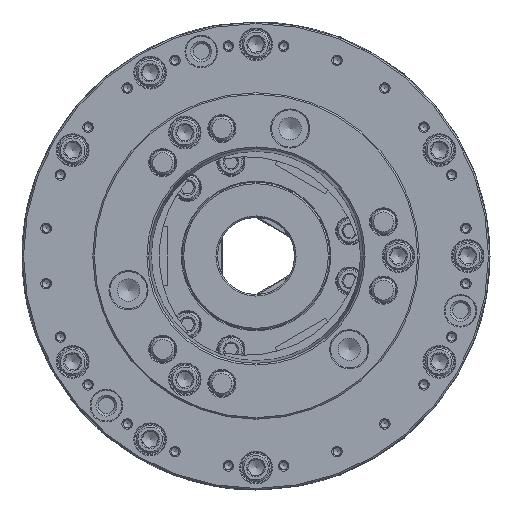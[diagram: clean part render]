
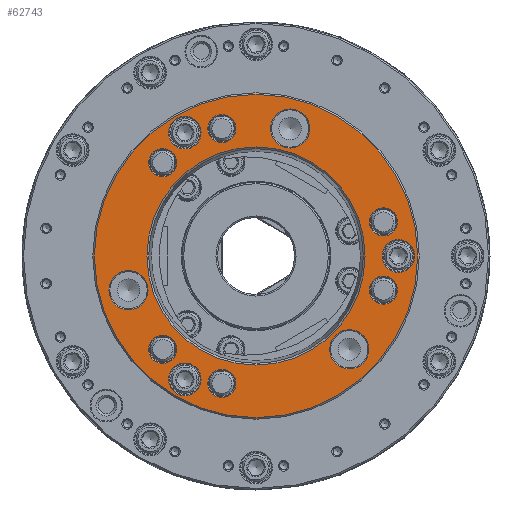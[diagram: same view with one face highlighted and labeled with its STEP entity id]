
A CAD part, left-side view. The second image highlights one B-rep face of the part: STEP entity #62743.
In plain terms, the highlighted planar face has unit normal (-1, 0, 0).
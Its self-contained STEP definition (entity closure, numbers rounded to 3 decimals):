
#1547 = VERTEX_POINT ( 'NONE', #137306 ) ;
#3673 = CIRCLE ( 'NONE', #86503, 9.1 ) ;
#4476 = DIRECTION ( 'NONE',  ( -1., 0., 0. ) ) ;
#4709 = DIRECTION ( 'NONE',  ( 0., 0., 1. ) ) ;
#4821 = CIRCLE ( 'NONE', #99530, 10.6 ) ;
#5440 = AXIS2_PLACEMENT_3D ( 'NONE', #75492, #141645, #39924 ) ;
#6103 = CIRCLE ( 'NONE', #136365, 9.1 ) ;
#7061 = DIRECTION ( 'NONE',  ( 1., 0., 0. ) ) ;
#7134 = DIRECTION ( 'NONE',  ( 0., 0., 1. ) ) ;
#7761 = CARTESIAN_POINT ( 'NONE',  ( -125., 46.25, 90.707 ) ) ;
#8239 = CARTESIAN_POINT ( 'NONE',  ( -125., -60.617, -73.322 ) ) ;
#8973 = VERTEX_POINT ( 'NONE', #8239 ) ;
#11307 = FACE_BOUND ( 'NONE', #35131, .T. ) ;
#13170 = EDGE_CURVE ( 'NONE', #1547, #1547, #72169, .T. ) ;
#13185 = CIRCLE ( 'NONE', #131648, 105. ) ;
#14830 = CIRCLE ( 'NONE', #123785, 9.1 ) ;
#14982 = ORIENTED_EDGE ( 'NONE', *, *, #13170, .T. ) ;
#15498 = ORIENTED_EDGE ( 'NONE', *, *, #29129, .F. ) ;
#15555 = CARTESIAN_POINT ( 'NONE',  ( -125., 46.25, -69.507 ) ) ;
#15605 = DIRECTION ( 'NONE',  ( 0., 0., 1. ) ) ;
#17101 = ORIENTED_EDGE ( 'NONE', *, *, #110512, .T. ) ;
#17134 = AXIS2_PLACEMENT_3D ( 'NONE', #68500, #92201, #101908 ) ;
#17188 = VERTEX_POINT ( 'NONE', #51200 ) ;
#18461 = VERTEX_POINT ( 'NONE', #86624 ) ;
#20449 = EDGE_LOOP ( 'NONE', ( #140870 ) ) ;
#20658 = VERTEX_POINT ( 'NONE', #88825 ) ;
#22438 = FACE_OUTER_BOUND ( 'NONE', #40760, .T. ) ;
#23261 = DIRECTION ( 'NONE',  ( 1., 0., 0. ) ) ;
#23442 = VERTEX_POINT ( 'NONE', #124332 ) ;
#23877 = FACE_BOUND ( 'NONE', #100569, .T. ) ;
#24221 = CIRCLE ( 'NONE', #17134, 70.861 ) ;
#25695 = ORIENTED_EDGE ( 'NONE', *, *, #134615, .T. ) ;
#26731 = CARTESIAN_POINT ( 'NONE',  ( -125., 60.617, 60.617 ) ) ;
#26752 = DIRECTION ( 'NONE',  ( -1., 0., 0. ) ) ;
#26850 = ORIENTED_EDGE ( 'NONE', *, *, #29685, .F. ) ;
#27838 = EDGE_LOOP ( 'NONE', ( #136632 ) ) ;
#29129 = EDGE_CURVE ( 'NONE', #61467, #61467, #131443, .T. ) ;
#29685 = EDGE_CURVE ( 'NONE', #132701, #132701, #6103, .T. ) ;
#32806 = CIRCLE ( 'NONE', #113340, 12.705 ) ;
#35131 = EDGE_LOOP ( 'NONE', ( #17101 ) ) ;
#35157 = DIRECTION ( 'NONE',  ( 0., 0., 1. ) ) ;
#35725 = FACE_BOUND ( 'NONE', #20449, .T. ) ;
#36315 = AXIS2_PLACEMENT_3D ( 'NONE', #45742, #79849, #99948 ) ;
#36596 = CARTESIAN_POINT ( 'NONE',  ( -125., 22.187, 82.804 ) ) ;
#38931 = DIRECTION ( 'NONE',  ( 0., 0., 1. ) ) ;
#39924 = DIRECTION ( 'NONE',  ( 0., 0., -1. ) ) ;
#40364 = ORIENTED_EDGE ( 'NONE', *, *, #101087, .F. ) ;
#40500 = AXIS2_PLACEMENT_3D ( 'NONE', #68469, #136799, #35157 ) ;
#40760 = EDGE_LOOP ( 'NONE', ( #25695 ) ) ;
#41182 = DIRECTION ( 'NONE',  ( -1., 0., 0. ) ) ;
#43359 = CIRCLE ( 'NONE', #36315, 9.1 ) ;
#44607 = DIRECTION ( 'NONE',  ( 0., 0., -1. ) ) ;
#45332 = FACE_BOUND ( 'NONE', #119752, .T. ) ;
#45454 = CARTESIAN_POINT ( 'NONE',  ( -125., 60.617, -60.617 ) ) ;
#45742 = CARTESIAN_POINT ( 'NONE',  ( -125., -82.804, 22.187 ) ) ;
#46136 = AXIS2_PLACEMENT_3D ( 'NONE', #26731, #4476, #15605 ) ;
#49063 = EDGE_LOOP ( 'NONE', ( #14982 ) ) ;
#49286 = CARTESIAN_POINT ( 'NONE',  ( -125., 46.25, -80.107 ) ) ;
#51200 = CARTESIAN_POINT ( 'NONE',  ( -125., 0., 70.861 ) ) ;
#54272 = EDGE_CURVE ( 'NONE', #62042, #62042, #3673, .T. ) ;
#54410 = DIRECTION ( 'NONE',  ( 0., 0., -1. ) ) ;
#54881 = DIRECTION ( 'NONE',  ( -1., 0., 0. ) ) ;
#56354 = VERTEX_POINT ( 'NONE', #136529 ) ;
#56478 = DIRECTION ( 'NONE',  ( 1., 0., 0. ) ) ;
#56579 = DIRECTION ( 'NONE',  ( -1., 0., 0. ) ) ;
#57192 = FACE_BOUND ( 'NONE', #49063, .T. ) ;
#58096 = ORIENTED_EDGE ( 'NONE', *, *, #54272, .F. ) ;
#58750 = DIRECTION ( 'NONE',  ( 0., 0., -1. ) ) ;
#61467 = VERTEX_POINT ( 'NONE', #95611 ) ;
#62042 = VERTEX_POINT ( 'NONE', #107305 ) ;
#62743 = ADVANCED_FACE ( 'NONE', ( #124046, #11307, #57192, #69780, #45332, #101726, #92762, #138113, #100993, #35725, #124767, #126209, #22438, #23877 ), #115069, .F. ) ;
#63791 = CARTESIAN_POINT ( 'NONE',  ( -125., -82.804, 31.287 ) ) ;
#66899 = EDGE_CURVE ( 'NONE', #23442, #23442, #32806, .T. ) ;
#67470 = CARTESIAN_POINT ( 'NONE',  ( -125., 22.187, 91.904 ) ) ;
#68469 = CARTESIAN_POINT ( 'NONE',  ( -125., -92.5, 0. ) ) ;
#68500 = CARTESIAN_POINT ( 'NONE',  ( -125., 0., 0. ) ) ;
#68920 = VERTEX_POINT ( 'NONE', #67470 ) ;
#69780 = FACE_BOUND ( 'NONE', #90919, .T. ) ;
#72169 = CIRCLE ( 'NONE', #79279, 12.705 ) ;
#74046 = CIRCLE ( 'NONE', #5440, 12.705 ) ;
#75492 = CARTESIAN_POINT ( 'NONE',  ( -125., -60.617, -60.617 ) ) ;
#79279 = AXIS2_PLACEMENT_3D ( 'NONE', #88546, #7061, #54410 ) ;
#79849 = DIRECTION ( 'NONE',  ( -1., 0., 0. ) ) ;
#83089 = CARTESIAN_POINT ( 'NONE',  ( -125., 22.187, -82.804 ) ) ;
#83823 = DIRECTION ( 'NONE',  ( 0., 0., 1. ) ) ;
#84166 = EDGE_LOOP ( 'NONE', ( #114545 ) ) ;
#86503 = AXIS2_PLACEMENT_3D ( 'NONE', #112763, #54881, #87512 ) ;
#86624 = CARTESIAN_POINT ( 'NONE',  ( -125., -92.5, 10.6 ) ) ;
#87291 = AXIS2_PLACEMENT_3D ( 'NONE', #146336, #56478, #44607 ) ;
#87512 = DIRECTION ( 'NONE',  ( 0., 0., 1. ) ) ;
#87561 = EDGE_CURVE ( 'NONE', #110778, #110778, #141351, .T. ) ;
#88539 = EDGE_LOOP ( 'NONE', ( #40364 ) ) ;
#88546 = CARTESIAN_POINT ( 'NONE',  ( -125., 82.804, -22.187 ) ) ;
#88825 = CARTESIAN_POINT ( 'NONE',  ( -125., 0., 105. ) ) ;
#89167 = AXIS2_PLACEMENT_3D ( 'NONE', #128355, #26752, #129082 ) ;
#90919 = EDGE_LOOP ( 'NONE', ( #26850 ) ) ;
#92187 = EDGE_LOOP ( 'NONE', ( #116874 ) ) ;
#92201 = DIRECTION ( 'NONE',  ( -1., 0., 0. ) ) ;
#92762 = FACE_BOUND ( 'NONE', #92187, .T. ) ;
#95611 = CARTESIAN_POINT ( 'NONE',  ( -125., 60.617, 69.717 ) ) ;
#99530 = AXIS2_PLACEMENT_3D ( 'NONE', #49286, #116865, #38931 ) ;
#99948 = DIRECTION ( 'NONE',  ( 0., 0., 1. ) ) ;
#100569 = EDGE_LOOP ( 'NONE', ( #15498 ) ) ;
#100993 = FACE_BOUND ( 'NONE', #135746, .T. ) ;
#101087 = EDGE_CURVE ( 'NONE', #17188, #17188, #24221, .T. ) ;
#101726 = FACE_BOUND ( 'NONE', #27838, .T. ) ;
#101846 = DIRECTION ( 'NONE',  ( 0., 0., 1. ) ) ;
#101908 = DIRECTION ( 'NONE',  ( 0., 0., 1. ) ) ;
#102167 = CIRCLE ( 'NONE', #40500, 10.6 ) ;
#103939 = ORIENTED_EDGE ( 'NONE', *, *, #142762, .F. ) ;
#106725 = EDGE_CURVE ( 'NONE', #123180, #123180, #43359, .T. ) ;
#107305 = CARTESIAN_POINT ( 'NONE',  ( -125., -82.804, -13.087 ) ) ;
#110512 = EDGE_CURVE ( 'NONE', #8973, #8973, #74046, .T. ) ;
#110778 = VERTEX_POINT ( 'NONE', #7761 ) ;
#111536 = EDGE_CURVE ( 'NONE', #56354, #56354, #14830, .T. ) ;
#112763 = CARTESIAN_POINT ( 'NONE',  ( -125., -82.804, -22.187 ) ) ;
#113340 = AXIS2_PLACEMENT_3D ( 'NONE', #127049, #23261, #58750 ) ;
#114545 = ORIENTED_EDGE ( 'NONE', *, *, #87561, .F. ) ;
#115069 = PLANE ( 'NONE',  #87291 ) ;
#116695 = DIRECTION ( 'NONE',  ( -1., 0., 0. ) ) ;
#116865 = DIRECTION ( 'NONE',  ( -1., 0., 0. ) ) ;
#116874 = ORIENTED_EDGE ( 'NONE', *, *, #126855, .F. ) ;
#117262 = DIRECTION ( 'NONE',  ( -1., 0., 0. ) ) ;
#118065 = CIRCLE ( 'NONE', #137171, 9.1 ) ;
#119752 = EDGE_LOOP ( 'NONE', ( #137167 ) ) ;
#119869 = CARTESIAN_POINT ( 'NONE',  ( -125., 0., 0. ) ) ;
#120285 = EDGE_CURVE ( 'NONE', #68920, #68920, #118065, .T. ) ;
#123180 = VERTEX_POINT ( 'NONE', #63791 ) ;
#123785 = AXIS2_PLACEMENT_3D ( 'NONE', #83089, #117262, #83823 ) ;
#124046 = FACE_BOUND ( 'NONE', #124461, .T. ) ;
#124332 = CARTESIAN_POINT ( 'NONE',  ( -125., -22.187, 70.099 ) ) ;
#124461 = EDGE_LOOP ( 'NONE', ( #144732 ) ) ;
#124767 = FACE_BOUND ( 'NONE', #130227, .T. ) ;
#126209 = FACE_BOUND ( 'NONE', #88539, .T. ) ;
#126855 = EDGE_CURVE ( 'NONE', #130459, #130459, #4821, .T. ) ;
#127049 = CARTESIAN_POINT ( 'NONE',  ( -125., -22.187, 82.804 ) ) ;
#128355 = CARTESIAN_POINT ( 'NONE',  ( -125., 46.25, 80.107 ) ) ;
#129082 = DIRECTION ( 'NONE',  ( 0., 0., 1. ) ) ;
#130227 = EDGE_LOOP ( 'NONE', ( #103939 ) ) ;
#130459 = VERTEX_POINT ( 'NONE', #15555 ) ;
#131443 = CIRCLE ( 'NONE', #46136, 9.1 ) ;
#131648 = AXIS2_PLACEMENT_3D ( 'NONE', #119869, #41182, #7134 ) ;
#132701 = VERTEX_POINT ( 'NONE', #143877 ) ;
#134615 = EDGE_CURVE ( 'NONE', #20658, #20658, #13185, .T. ) ;
#135746 = EDGE_LOOP ( 'NONE', ( #58096 ) ) ;
#136365 = AXIS2_PLACEMENT_3D ( 'NONE', #45454, #56579, #101846 ) ;
#136529 = CARTESIAN_POINT ( 'NONE',  ( -125., 22.187, -73.704 ) ) ;
#136632 = ORIENTED_EDGE ( 'NONE', *, *, #120285, .F. ) ;
#136799 = DIRECTION ( 'NONE',  ( -1., 0., 0. ) ) ;
#137167 = ORIENTED_EDGE ( 'NONE', *, *, #111536, .F. ) ;
#137171 = AXIS2_PLACEMENT_3D ( 'NONE', #36596, #116695, #4709 ) ;
#137306 = CARTESIAN_POINT ( 'NONE',  ( -125., 82.804, -34.892 ) ) ;
#138113 = FACE_BOUND ( 'NONE', #84166, .T. ) ;
#140870 = ORIENTED_EDGE ( 'NONE', *, *, #106725, .F. ) ;
#141351 = CIRCLE ( 'NONE', #89167, 10.6 ) ;
#141645 = DIRECTION ( 'NONE',  ( 1., 0., 0. ) ) ;
#142762 = EDGE_CURVE ( 'NONE', #18461, #18461, #102167, .T. ) ;
#143877 = CARTESIAN_POINT ( 'NONE',  ( -125., 60.617, -51.517 ) ) ;
#144732 = ORIENTED_EDGE ( 'NONE', *, *, #66899, .T. ) ;
#146336 = CARTESIAN_POINT ( 'NONE',  ( -125., 105., 0. ) ) ;
